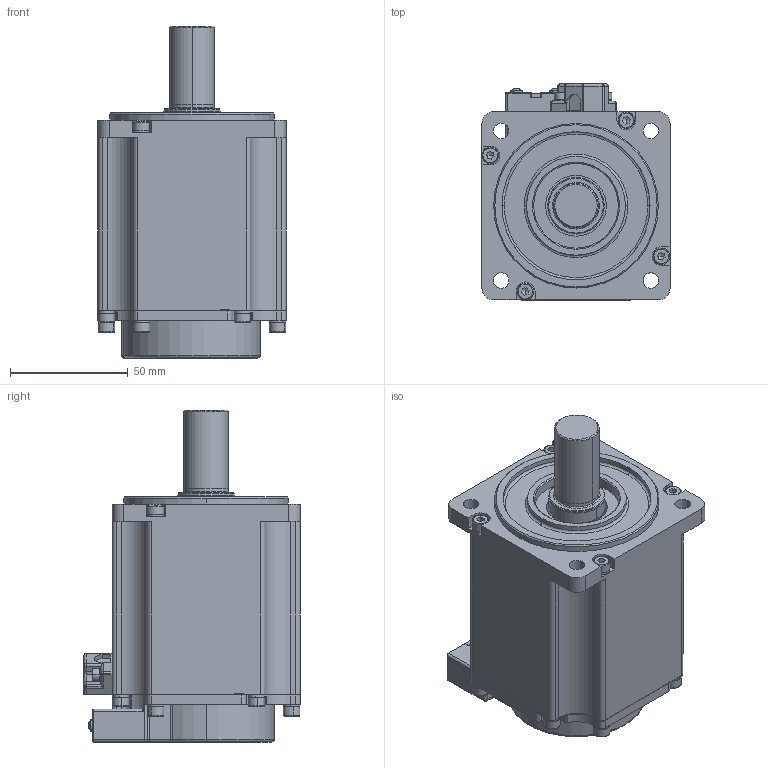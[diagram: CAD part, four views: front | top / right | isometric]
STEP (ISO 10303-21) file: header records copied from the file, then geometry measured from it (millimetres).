
FILE_DESCRIPTION (( 'STEP AP214' ), '1' );
FILE_NAME ('SME-H075.STEP', '2020-05-20T08:03:58', ( '' ), ( '' ), 'SwSTEP 2.0', 'SolidWorks 2016', '' );
FILE_SCHEMA (( 'AUTOMOTIVE_DESIGN' ));
Length unit declared in the file: millimetre
Products named in the file (8): _X2_87BA7D72588A7247_X0_(M4_X2_7528_X0_); JIS B 1176 - M4 x 12; Encoder Cable Fix; _X2_87BA91D8_X0_ GB 6560-86 M2.5 x 10; SME-H075(編輯); SME-H075; 編碼器蓋; M4-12_X2_542B588A7247_X0_
Assembly tree (15 placements, depth 3):
  SME-H075
    SME-H075(編輯)
    _X2_87BA91D8_X0_ GB 6560-86 M2.5 x 10  x2
    Encoder Cable Fix
    M4-12_X2_542B588A7247_X0_  x8
      JIS B 1176 - M4 x 12
      _X2_87BA7D72588A7247_X0_(M4_X2_7528_X0_)
    編碼器蓋
Bounding box: 80.03 x 92.02 x 141.2 mm (x, y, z)
Volume: 149245 mm3; surface area: 96496.3 mm2
Topology: 44 solids, 44 shells, 1026 faces, 2555 edges, 1605 vertices
Faces by surface type: plane 377, cylinder 366, cone 173, bspline 95, torus 10, sphere 5
Entity records: 31424 total; most frequent: CARTESIAN_POINT 6636, DIRECTION 4130, ORIENTED_EDGE 3888, EDGE_CURVE 1944, AXIS2_PLACEMENT_3D 1600, VERTEX_POINT 1248, VECTOR 930, LINE 930
